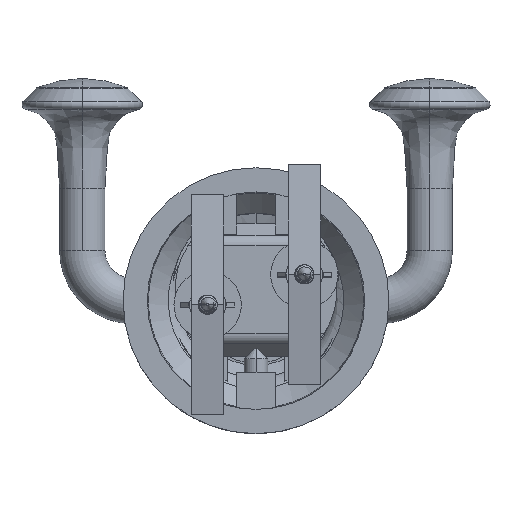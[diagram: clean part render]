
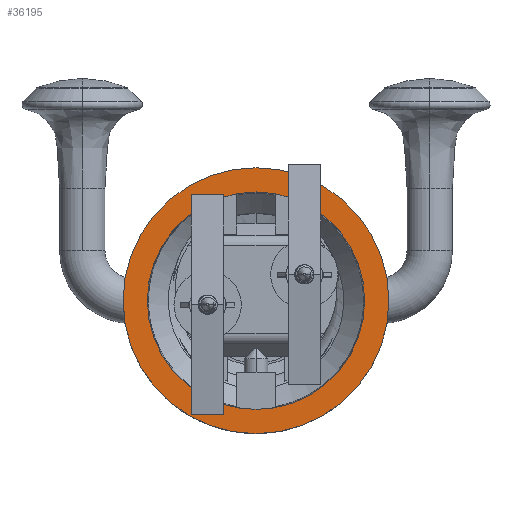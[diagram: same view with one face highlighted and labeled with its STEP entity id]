
A CAD part, top view. The second image highlights one B-rep face of the part: STEP entity #36195.
In plain terms, the highlighted planar face has unit normal (0, 0, 1).
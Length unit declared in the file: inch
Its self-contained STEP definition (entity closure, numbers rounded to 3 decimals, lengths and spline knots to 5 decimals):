
#122 = EDGE_CURVE ( 'NONE', #23417, #34063, #7715, .T. ) ;
#241 = DIRECTION ( 'NONE',  ( -1., 0., 0. ) ) ;
#712 = AXIS2_PLACEMENT_3D ( 'NONE', #28814, #20167, #25377 ) ;
#3852 = CIRCLE ( 'NONE', #21056, 0.89962 ) ;
#4708 = FACE_BOUND ( 'NONE', #16723, .T. ) ;
#5826 = CARTESIAN_POINT ( 'NONE',  ( 0., 0., 0. ) ) ;
#7715 = CIRCLE ( 'NONE', #31698, 0.89962 ) ;
#9181 = ORIENTED_EDGE ( 'NONE', *, *, #23718, .F. ) ;
#10094 = CARTESIAN_POINT ( 'NONE',  ( 0., 0., 0. ) ) ;
#10137 = CARTESIAN_POINT ( 'NONE',  ( 0.89962, 0., 0. ) ) ;
#16271 = DIRECTION ( 'NONE',  ( 1., 0., 0. ) ) ;
#16723 = EDGE_LOOP ( 'NONE', ( #20154, #9181 ) ) ;
#16826 = EDGE_LOOP ( 'NONE', ( #27499, #34765 ) ) ;
#17323 = CIRCLE ( 'NONE', #712, 1.1 ) ;
#17988 = EDGE_CURVE ( 'NONE', #24841, #30708, #28960, .T. ) ;
#20154 = ORIENTED_EDGE ( 'NONE', *, *, #122, .F. ) ;
#20167 = DIRECTION ( 'NONE',  ( 0., 0., -1. ) ) ;
#20947 = EDGE_CURVE ( 'NONE', #30708, #24841, #17323, .T. ) ;
#21056 = AXIS2_PLACEMENT_3D ( 'NONE', #5826, #35439, #241 ) ;
#21859 = CARTESIAN_POINT ( 'NONE',  ( 0., 0., 0. ) ) ;
#22036 = DIRECTION ( 'NONE',  ( 1., 0., 0. ) ) ;
#23417 = VERTEX_POINT ( 'NONE', #10137 ) ;
#23718 = EDGE_CURVE ( 'NONE', #34063, #23417, #3852, .T. ) ;
#24841 = VERTEX_POINT ( 'NONE', #29128 ) ;
#24936 = DIRECTION ( 'NONE',  ( 0., 0., 1. ) ) ;
#25112 = CARTESIAN_POINT ( 'NONE',  ( 0., 0., 0. ) ) ;
#25377 = DIRECTION ( 'NONE',  ( -1., 0., 0. ) ) ;
#27254 = DIRECTION ( 'NONE',  ( 1., 0., 0. ) ) ;
#27499 = ORIENTED_EDGE ( 'NONE', *, *, #20947, .F. ) ;
#27655 = CARTESIAN_POINT ( 'NONE',  ( -0.89962, 0., 0. ) ) ;
#27731 = AXIS2_PLACEMENT_3D ( 'NONE', #10094, #30677, #22036 ) ;
#28187 = FACE_OUTER_BOUND ( 'NONE', #16826, .T. ) ;
#28814 = CARTESIAN_POINT ( 'NONE',  ( 0., 0., 0. ) ) ;
#28960 = CIRCLE ( 'NONE', #27731, 1.1 ) ;
#29128 = CARTESIAN_POINT ( 'NONE',  ( 1.1, 0., 0. ) ) ;
#30677 = DIRECTION ( 'NONE',  ( 0., 0., -1. ) ) ;
#30708 = VERTEX_POINT ( 'NONE', #37841 ) ;
#31698 = AXIS2_PLACEMENT_3D ( 'NONE', #21859, #24936, #27254 ) ;
#34063 = VERTEX_POINT ( 'NONE', #27655 ) ;
#34134 = DIRECTION ( 'NONE',  ( 0., 0., 1. ) ) ;
#34765 = ORIENTED_EDGE ( 'NONE', *, *, #17988, .F. ) ;
#35439 = DIRECTION ( 'NONE',  ( 0., 0., 1. ) ) ;
#36195 = ADVANCED_FACE ( 'NONE', ( #4708, #28187 ), #37000, .T. ) ;
#37000 = PLANE ( 'NONE',  #37134 ) ;
#37134 = AXIS2_PLACEMENT_3D ( 'NONE', #25112, #34134, #16271 ) ;
#37841 = CARTESIAN_POINT ( 'NONE',  ( -1.1, 0., 0. ) ) ;
